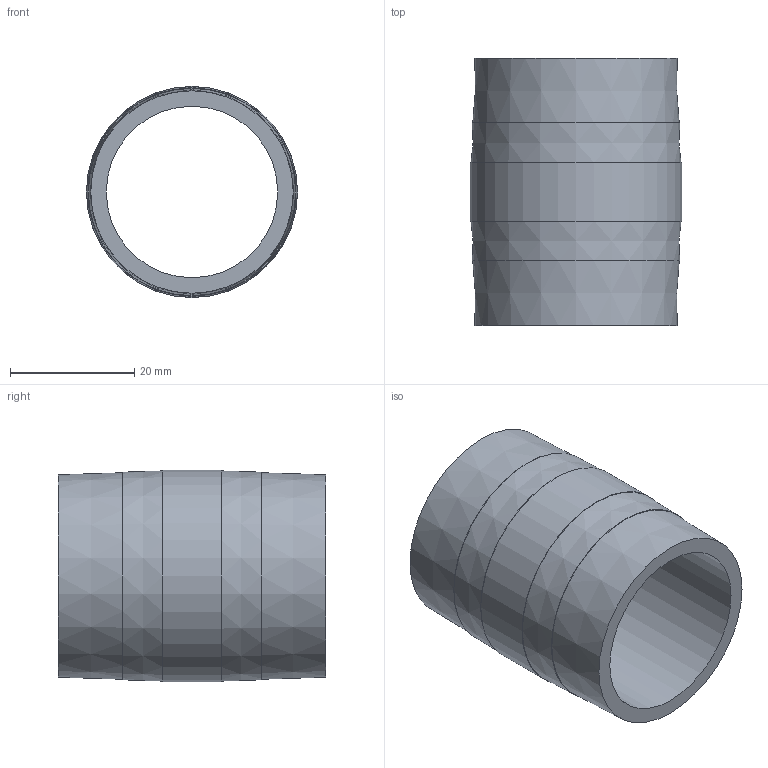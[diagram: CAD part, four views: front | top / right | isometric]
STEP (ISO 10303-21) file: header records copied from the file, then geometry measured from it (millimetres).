
FILE_DESCRIPTION(/* description */ ('ＳＵＳ３０４'),/* implementation_level */ '2;1');
FILE_NAME(/* name */ 'C:\Users\Fujimoto-s\OneDrive\Inventor\WorkSpace\\X2\305D306E4ED6\X0\\ホームページ用\\X2\30C030A630F330ED30FC30C97D206750\X0\\ねじ込み継手\Ni-25A-1\Ni-25A-1.stp',/* time_stamp */ '2024-08-08T10:09:08+09:00',/* author */ ('Fujimoto-s'),/* organization */ (''),/* preprocessor_version */ 'ST-DEVELOPER v15.2',/* originating_system */ 'Autodesk Inventor 2014',/* authorisation */ '');
FILE_SCHEMA (('AUTOMOTIVE_DESIGN { 1 0 10303 214 3 1 1 }'));
Length unit declared in the file: millimetre
Products named in the file (1): Ni-25A-1
Bounding box: 34 x 43 x 34 mm (x, y, z)
Volume: 11885.6 mm3; surface area: 8747.7 mm2
Topology: 1 solids, 1 shells, 12 faces, 19 edges, 13 vertices
Faces by surface type: plane 6, cone 4, cylinder 2
Full cylindrical faces by diameter (mm): 27.6 x1, 34 x1
Entity records: 272 total; most frequent: DIRECTION 50, CARTESIAN_POINT 37, AXIS2_PLACEMENT_3D 25, EDGE_LOOP 24, ORIENTED_EDGE 24, FACE_BOUND 16, CIRCLE 12, VERTEX_POINT 12
